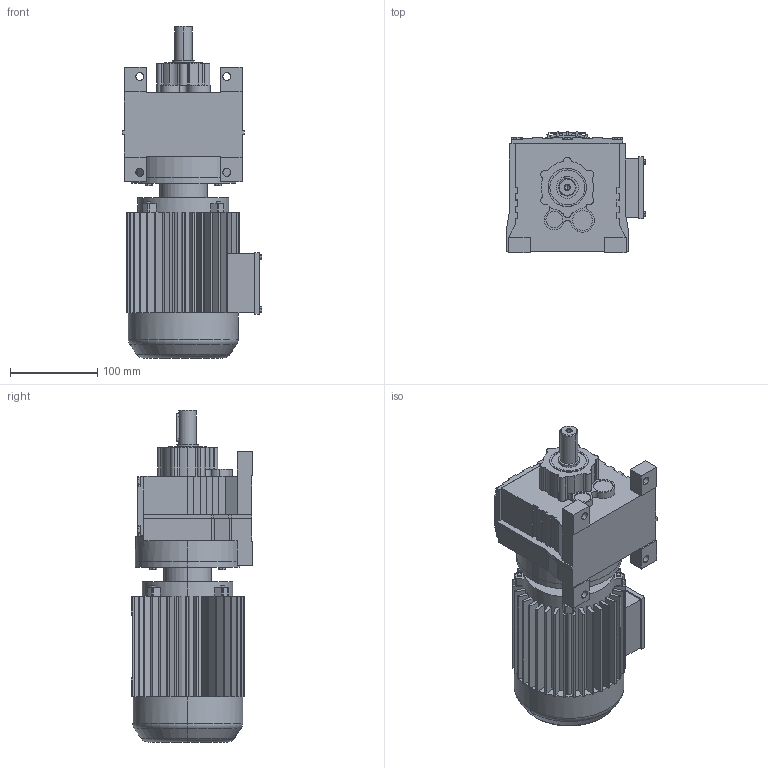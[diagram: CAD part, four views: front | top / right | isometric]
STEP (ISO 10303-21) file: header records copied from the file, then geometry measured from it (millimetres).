
FILE_DESCRIPTION(('Open CASCADE Model'),'2;1');
FILE_NAME('Open CASCADE Shape Model','2021-07-13T13:40:22',('Author'),( 'Open CASCADE'),'Open CASCADE STEP processor 6.3','Open CASCADE 6.3' ,'Unknown');
FILE_SCHEMA(('AUTOMOTIVE_DESIGN_CC2 { 1 2 10303 214 -1 1 5 4 }'));
Length unit declared in the file: millimetre
Products named in the file (3): 1_R17-Y63S; R07‵27_17.step; 萇儂_120_Y63S.step
Assembly tree (2 placements, depth 2):
  1_R17-Y63S
    R07‵27_17.step
    萇儂_120_Y63S.step
Bounding box: 160 x 140 x 381 mm (x, y, z)
Volume: 3846858.5 mm3; surface area: 328804.8 mm2
Topology: 2 solids, 2 shells, 709 faces, 1899 edges, 1228 vertices
Faces by surface type: plane 505, cylinder 192, cone 8, torus 4
Entity records: 47407 total; most frequent: CARTESIAN_POINT 11115, DIRECTION 6353, ORIENTED_EDGE 3794, PCURVE 3794, DEFINITIONAL_REPRESENTATION 3794, LINE 3562, VECTOR 3562, EDGE_CURVE 1897
